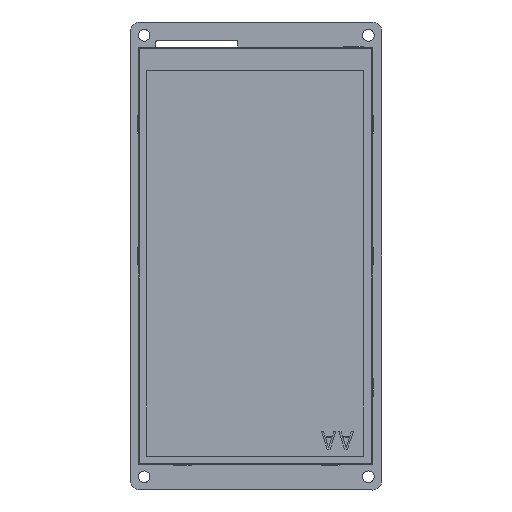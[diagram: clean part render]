
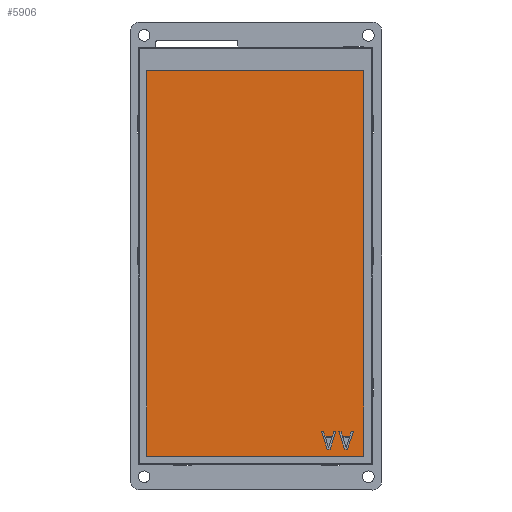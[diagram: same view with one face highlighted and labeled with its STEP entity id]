
A CAD part, front view. The second image highlights one B-rep face of the part: STEP entity #5906.
In plain terms, the highlighted planar face has unit normal (0, -1, 0) as drawn and (0, 1, 0) by its records, which use the part's own axes.
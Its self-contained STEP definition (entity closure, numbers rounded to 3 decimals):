
#5333=DIRECTION('',(0.,0.,1.));
#5334=VECTOR('',#5333,110.4);
#5335=CARTESIAN_POINT('',(-31.05,1.4,-57.25));
#5336=LINE('',#5335,#5334);
#5337=DIRECTION('',(-1.,0.,0.));
#5338=VECTOR('',#5337,62.1);
#5339=CARTESIAN_POINT('',(31.05,1.4,-57.25));
#5340=LINE('',#5339,#5338);
#5341=DIRECTION('',(0.,0.,-1.));
#5342=VECTOR('',#5341,110.4);
#5343=CARTESIAN_POINT('',(31.05,1.4,53.15));
#5344=LINE('',#5343,#5342);
#5345=DIRECTION('',(1.,0.,0.));
#5346=VECTOR('',#5345,62.1);
#5347=CARTESIAN_POINT('',(-31.05,1.4,53.15));
#5348=LINE('',#5347,#5346);
#5349=DIRECTION('',(0.316,0.,0.949));
#5350=VECTOR('',#5349,5.27);
#5351=CARTESIAN_POINT('',(-25.55,1.4,-55.25));
#5352=LINE('',#5351,#5350);
#5353=DIRECTION('',(1.,0.,0.));
#5354=VECTOR('',#5353,0.833);
#5355=CARTESIAN_POINT('',(-26.383,1.4,-55.25));
#5356=LINE('',#5355,#5354);
#5357=DIRECTION('',(0.316,0.,-0.949));
#5358=VECTOR('',#5357,5.27);
#5359=CARTESIAN_POINT('',(-28.05,1.4,-50.25));
#5360=LINE('',#5359,#5358);
#5361=DIRECTION('',(-1.,0.,0.));
#5362=VECTOR('',#5361,0.625);
#5363=CARTESIAN_POINT('',(-27.425,1.4,-50.25));
#5364=LINE('',#5363,#5362);
#5365=DIRECTION('',(-0.31,0.,0.951));
#5366=VECTOR('',#5365,1.343);
#5367=CARTESIAN_POINT('',(-27.008,1.4,-51.527));
#5368=LINE('',#5367,#5366);
#5369=DIRECTION('',(-1.,0.,0.));
#5370=VECTOR('',#5369,2.083);
#5371=CARTESIAN_POINT('',(-24.925,1.4,-51.527));
#5372=LINE('',#5371,#5370);
#5373=DIRECTION('',(-0.31,0.,-0.951));
#5374=VECTOR('',#5373,1.343);
#5375=CARTESIAN_POINT('',(-24.508,1.4,-50.25));
#5376=LINE('',#5375,#5374);
#5377=DIRECTION('',(-1.,0.,0.));
#5378=VECTOR('',#5377,0.625);
#5379=CARTESIAN_POINT('',(-23.883,1.4,-50.25));
#5380=LINE('',#5379,#5378);
#5393=DIRECTION('',(0.316,0.,0.949));
#5394=VECTOR('',#5393,5.27);
#5395=CARTESIAN_POINT('',(-20.55,1.4,-55.25));
#5396=LINE('',#5395,#5394);
#5397=DIRECTION('',(1.,0.,0.));
#5398=VECTOR('',#5397,0.833);
#5399=CARTESIAN_POINT('',(-21.383,1.4,-55.25));
#5400=LINE('',#5399,#5398);
#5401=DIRECTION('',(0.316,0.,-0.949));
#5402=VECTOR('',#5401,5.27);
#5403=CARTESIAN_POINT('',(-23.05,1.4,-50.25));
#5404=LINE('',#5403,#5402);
#5405=DIRECTION('',(-1.,0.,0.));
#5406=VECTOR('',#5405,0.625);
#5407=CARTESIAN_POINT('',(-22.425,1.4,-50.25));
#5408=LINE('',#5407,#5406);
#5409=DIRECTION('',(-0.31,0.,0.951));
#5410=VECTOR('',#5409,1.343);
#5411=CARTESIAN_POINT('',(-22.008,1.4,-51.527));
#5412=LINE('',#5411,#5410);
#5413=DIRECTION('',(-1.,0.,0.));
#5414=VECTOR('',#5413,2.083);
#5415=CARTESIAN_POINT('',(-19.925,1.4,-51.527));
#5416=LINE('',#5415,#5414);
#5417=DIRECTION('',(-0.31,0.,-0.951));
#5418=VECTOR('',#5417,1.343);
#5419=CARTESIAN_POINT('',(-19.508,1.4,-50.25));
#5420=LINE('',#5419,#5418);
#5421=DIRECTION('',(-1.,0.,0.));
#5422=VECTOR('',#5421,0.625);
#5423=CARTESIAN_POINT('',(-18.883,1.4,-50.25));
#5424=LINE('',#5423,#5422);
#5541=CARTESIAN_POINT('',(-31.05,1.4,-57.25));
#5542=CARTESIAN_POINT('',(-31.05,1.4,53.15));
#5543=VERTEX_POINT('',#5541);
#5544=VERTEX_POINT('',#5542);
#5545=CARTESIAN_POINT('',(31.05,1.4,53.15));
#5546=VERTEX_POINT('',#5545);
#5547=CARTESIAN_POINT('',(31.05,1.4,-57.25));
#5548=VERTEX_POINT('',#5547);
#5549=CARTESIAN_POINT('',(-25.55,1.4,-55.25));
#5550=CARTESIAN_POINT('',(-23.883,1.4,-50.25));
#5551=VERTEX_POINT('',#5549);
#5552=VERTEX_POINT('',#5550);
#5553=CARTESIAN_POINT('',(-24.508,1.4,-50.25));
#5554=VERTEX_POINT('',#5553);
#5555=CARTESIAN_POINT('',(-24.925,1.4,-51.527));
#5556=VERTEX_POINT('',#5555);
#5557=CARTESIAN_POINT('',(-27.008,1.4,-51.527));
#5558=VERTEX_POINT('',#5557);
#5559=CARTESIAN_POINT('',(-27.425,1.4,-50.25));
#5560=VERTEX_POINT('',#5559);
#5561=CARTESIAN_POINT('',(-28.05,1.4,-50.25));
#5562=VERTEX_POINT('',#5561);
#5563=CARTESIAN_POINT('',(-26.383,1.4,-55.25));
#5564=VERTEX_POINT('',#5563);
#5571=CARTESIAN_POINT('',(-20.55,1.4,-55.25));
#5572=CARTESIAN_POINT('',(-18.883,1.4,-50.25));
#5573=VERTEX_POINT('',#5571);
#5574=VERTEX_POINT('',#5572);
#5575=CARTESIAN_POINT('',(-19.508,1.4,-50.25));
#5576=VERTEX_POINT('',#5575);
#5577=CARTESIAN_POINT('',(-19.925,1.4,-51.527));
#5578=VERTEX_POINT('',#5577);
#5579=CARTESIAN_POINT('',(-22.008,1.4,-51.527));
#5580=VERTEX_POINT('',#5579);
#5581=CARTESIAN_POINT('',(-22.425,1.4,-50.25));
#5582=VERTEX_POINT('',#5581);
#5583=CARTESIAN_POINT('',(-23.05,1.4,-50.25));
#5584=VERTEX_POINT('',#5583);
#5585=CARTESIAN_POINT('',(-21.383,1.4,-55.25));
#5586=VERTEX_POINT('',#5585);
#5859=CARTESIAN_POINT('',(0.,1.4,0.));
#5860=DIRECTION('',(0.,1.,0.));
#5861=DIRECTION('',(1.,0.,0.));
#5862=AXIS2_PLACEMENT_3D('',#5859,#5860,#5861);
#5863=PLANE('',#5862);
#5864=ORIENTED_EDGE('',*,*,#5811,.F.);
#5865=ORIENTED_EDGE('',*,*,#5826,.F.);
#5866=ORIENTED_EDGE('',*,*,#5840,.F.);
#5867=ORIENTED_EDGE('',*,*,#5853,.F.);
#5868=EDGE_LOOP('',(#5864,#5865,#5866,#5867));
#5869=FACE_OUTER_BOUND('',#5868,.F.);
#5871=ORIENTED_EDGE('',*,*,#5870,.F.);
#5873=ORIENTED_EDGE('',*,*,#5872,.F.);
#5875=ORIENTED_EDGE('',*,*,#5874,.F.);
#5877=ORIENTED_EDGE('',*,*,#5876,.F.);
#5879=ORIENTED_EDGE('',*,*,#5878,.F.);
#5881=ORIENTED_EDGE('',*,*,#5880,.F.);
#5883=ORIENTED_EDGE('',*,*,#5882,.F.);
#5885=ORIENTED_EDGE('',*,*,#5884,.F.);
#5886=EDGE_LOOP('',(#5871,#5873,#5875,#5877,#5879,#5881,#5883,#5885));
#5887=FACE_BOUND('',#5886,.F.);
#5889=ORIENTED_EDGE('',*,*,#5888,.F.);
#5891=ORIENTED_EDGE('',*,*,#5890,.F.);
#5893=ORIENTED_EDGE('',*,*,#5892,.F.);
#5895=ORIENTED_EDGE('',*,*,#5894,.F.);
#5897=ORIENTED_EDGE('',*,*,#5896,.F.);
#5899=ORIENTED_EDGE('',*,*,#5898,.F.);
#5901=ORIENTED_EDGE('',*,*,#5900,.F.);
#5903=ORIENTED_EDGE('',*,*,#5902,.F.);
#5904=EDGE_LOOP('',(#5889,#5891,#5893,#5895,#5897,#5899,#5901,#5903));
#5905=FACE_BOUND('',#5904,.F.);
#5811=EDGE_CURVE('',#5543,#5544,#5336,.T.);
#5826=EDGE_CURVE('',#5548,#5543,#5340,.T.);
#5840=EDGE_CURVE('',#5546,#5548,#5344,.T.);
#5853=EDGE_CURVE('',#5544,#5546,#5348,.T.);
#5870=EDGE_CURVE('',#5551,#5552,#5352,.T.);
#5872=EDGE_CURVE('',#5564,#5551,#5356,.T.);
#5874=EDGE_CURVE('',#5562,#5564,#5360,.T.);
#5876=EDGE_CURVE('',#5560,#5562,#5364,.T.);
#5878=EDGE_CURVE('',#5558,#5560,#5368,.T.);
#5880=EDGE_CURVE('',#5556,#5558,#5372,.T.);
#5882=EDGE_CURVE('',#5554,#5556,#5376,.T.);
#5884=EDGE_CURVE('',#5552,#5554,#5380,.T.);
#5888=EDGE_CURVE('',#5573,#5574,#5396,.T.);
#5890=EDGE_CURVE('',#5586,#5573,#5400,.T.);
#5892=EDGE_CURVE('',#5584,#5586,#5404,.T.);
#5894=EDGE_CURVE('',#5582,#5584,#5408,.T.);
#5896=EDGE_CURVE('',#5580,#5582,#5412,.T.);
#5898=EDGE_CURVE('',#5578,#5580,#5416,.T.);
#5900=EDGE_CURVE('',#5576,#5578,#5420,.T.);
#5902=EDGE_CURVE('',#5574,#5576,#5424,.T.);
#5906=ADVANCED_FACE('',(#5869,#5887,#5905),#5863,.T.);
